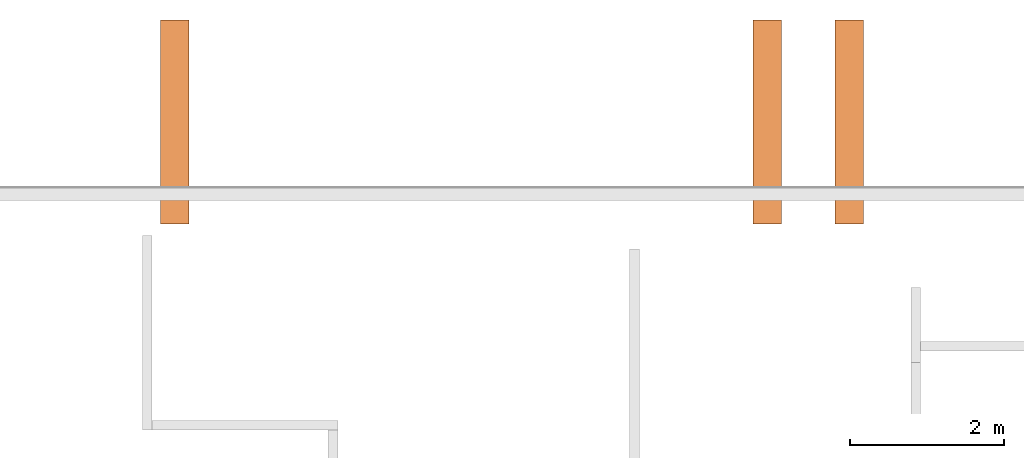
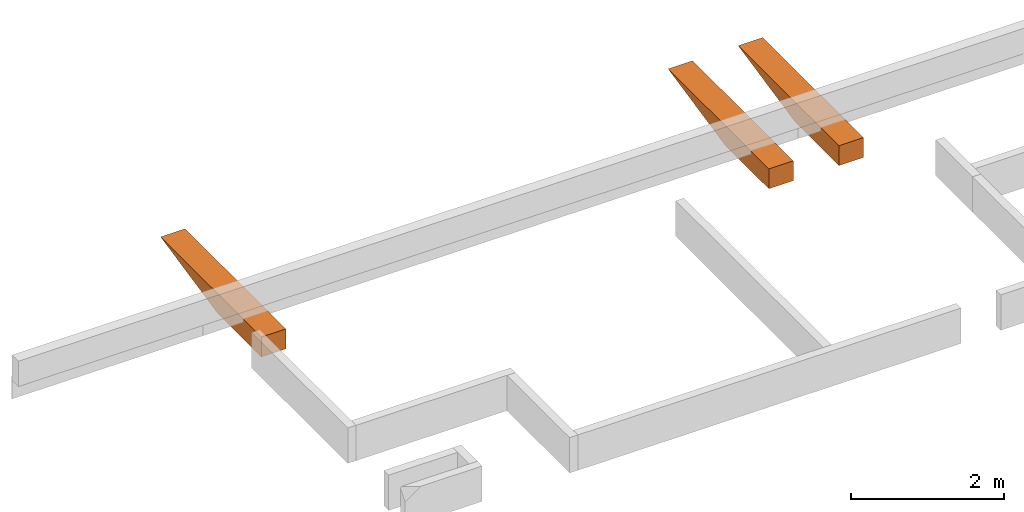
# One storey, part 2 of 2: 1 proxy.
"""IFC2X3 building model written with IfcOpenShell, lengths in millimetres."""

from ifc_helpers import new_model, entity, si_unit, converted_unit, derived_unit, direction, frame, origin_with_axes, place, context, subcontext, project, spatial, faceted_brep, material, type_object, element, save


model = new_model("IFC2X3")

# Units and contexts
model_context = context("Model", 3, precision=0.01, world=frame((0.0, 4.29681676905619e-09, 0.0)), true_north=direction((4.01073788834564e-13, 1.0)))
plan_context = context("Plan", 3, precision=0.01, world=frame((0.0, 4.29681676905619e-09, 0.0)), true_north=direction((4.01073788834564e-13, 1.0)))
body_context = subcontext(model_context, "Body", "Model", "MODEL_VIEW")
ifc_project = project(units=[converted_unit("PLANEANGLEUNIT", "DEGREE", entity("IfcPositiveLengthMeasure", 0.0174532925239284), si_unit("PLANEANGLEUNIT", "RADIAN"), dimensions=[0, 0, 0, 0, 0, 0, 0]), si_unit("AREAUNIT", "SQUARE_METRE"), si_unit("LENGTHUNIT", "METRE", prefix="MILLI"), si_unit("MASSUNIT", "GRAM", prefix="KILO"), si_unit("POWERUNIT", "WATT"), si_unit("PRESSUREUNIT", "PASCAL"), si_unit("FORCEUNIT", "NEWTON", prefix="KILO"), si_unit("ELECTRICVOLTAGEUNIT", "VOLT"), si_unit("ELECTRICCURRENTUNIT", "AMPERE"), si_unit("THERMODYNAMICTEMPERATUREUNIT", "DEGREE_CELSIUS"), si_unit("TIMEUNIT", "SECOND"), si_unit("VOLUMEUNIT", "CUBIC_METRE"), derived_unit("LINEARVELOCITYUNIT", [(si_unit("LENGTHUNIT", "METRE"), 1), (si_unit("TIMEUNIT", "SECOND"), -1)]), derived_unit("VOLUMETRICFLOWRATEUNIT", [(si_unit("VOLUMEUNIT", "CUBIC_METRE"), 1), (si_unit("TIMEUNIT", "SECOND"), -1)]), derived_unit("THERMALTRANSMITTANCEUNIT", [(si_unit("POWERUNIT", "WATT"), 1), (si_unit("THERMODYNAMICTEMPERATUREUNIT", "KELVIN"), -1), (si_unit("AREAUNIT", "SQUARE_METRE"), -1)]), derived_unit("SOUNDPRESSUREUNIT", [(si_unit("PRESSUREUNIT", "PASCAL"), 1)])], contexts=[model_context, plan_context])

# Site, building, storey
site_placement = place(None, origin_with_axes())
site = spatial("IfcSite", under=ifc_project, at=site_placement, Name="ENGM", CompositionType="ELEMENT")
building_placement = place(site_placement, origin_with_axes())
building = spatial("IfcBuilding", under=site, at=building_placement, Name="TH", CompositionType="ELEMENT")
storey_placement = place(building_placement, frame((0.0, 0.0, 207370.000000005), z_axis=(0.0, 0.0, 1.0), x_axis=(1.0, 0.0, 0.0)))
storey = spatial("IfcBuildingStorey", under=building, at=storey_placement, Name="Nivå E", CompositionType="ELEMENT", Elevation=207370.000000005)

# Proxy
ifc_material = material(Name="<Unnamed>")
building_element_proxy_type = type_object("IfcBuildingElementProxyType", Name="A225 - Plateinnkledning bjelker - nordside:A225 - Plateinnkledning bjelker - nordside", PredefinedType="NOTDEFINED", material=ifc_material)
proxy_placement = place(storey_placement, frame((0.0, 0.0, -207370.000000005), z_axis=(0.0, 0.0, 1.0), x_axis=(1.0, 0.0, 0.0)))
element("IfcBuildingElementProxy", 1, at=proxy_placement, inside=storey, type_object=building_element_proxy_type, Name="A225 - Plateinnkledning bjelker - nordside:A225 - Plateinnkledning bjelker - nordside", ObjectType="A225 - Plateinnkledning bjelker - nordside:A225 - Plateinnkledning bjelker - nordside", context=body_context, shape_type="Brep", body=[
    faceted_brep([(898610.005022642, 485664.296182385, 209200.0), (898980.148862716, 485664.296182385, 209200.0), (898980.148862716, 487164.999999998, 209517.47429878), (898610.005022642, 487164.999999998, 209517.47429878), (898980.148862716, 484524.999999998, 209517.47429878), (898610.005022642, 484524.999999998, 209517.47429878), (898980.148862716, 484524.999999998, 209200.0), (898610.005022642, 484524.999999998, 209200.0)], [[[0, 1, 2, 3]], [[3, 2, 4, 5]], [[6, 7, 5, 4]], [[7, 0, 3, 5]], [[1, 6, 4, 2]], [[7, 6, 1, 0]]], orient=[[False], [False], [False], [False], [False], [False]]),
    faceted_brep([(906285.005022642, 485664.296182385, 209200.0), (906655.148862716, 485664.296182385, 209200.0), (906655.148862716, 487164.999999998, 209517.47429878), (906285.005022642, 487164.999999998, 209517.47429878), (906655.148862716, 484524.999999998, 209517.47429878), (906285.005022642, 484524.999999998, 209517.47429878), (906655.148862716, 484524.999999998, 209200.0), (906285.005022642, 484524.999999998, 209200.0)], [[[0, 1, 2, 3]], [[3, 2, 4, 5]], [[6, 7, 5, 4]], [[7, 0, 3, 5]], [[1, 6, 4, 2]], [[7, 6, 1, 0]]], orient=[[False], [False], [False], [False], [False], [False]]),
    faceted_brep([(907345.000000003, 485664.296182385, 209200.0), (907715.143840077, 485664.296182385, 209200.0), (907715.143840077, 487164.999999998, 209517.47429878), (907345.000000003, 487164.999999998, 209517.47429878), (907715.143840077, 484524.999999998, 209517.47429878), (907345.000000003, 484524.999999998, 209517.47429878), (907715.143840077, 484524.999999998, 209200.0), (907345.000000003, 484524.999999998, 209200.0)], [[[0, 1, 2, 3]], [[3, 2, 4, 5]], [[6, 7, 5, 4]], [[7, 0, 3, 5]], [[1, 6, 4, 2]], [[7, 6, 1, 0]]], orient=[[False], [False], [False], [False], [False], [False]]),
])

save(model, "model.ifc")
